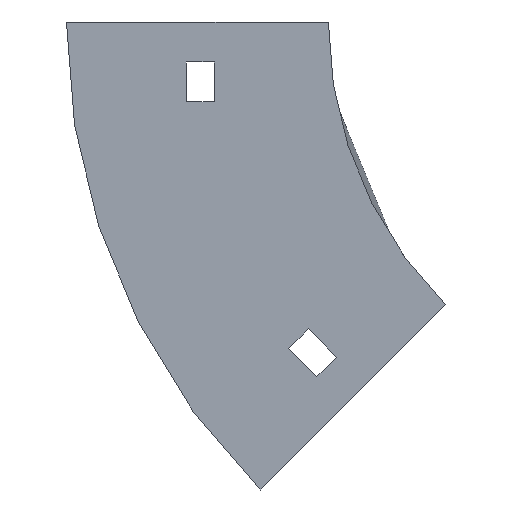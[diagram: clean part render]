
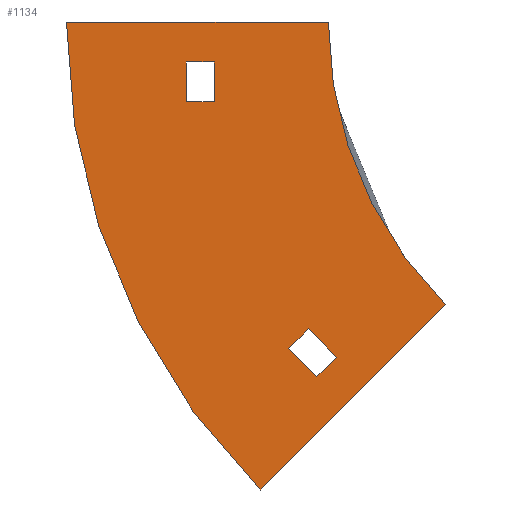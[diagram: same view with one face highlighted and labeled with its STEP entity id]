
A CAD part, left-side view. The second image highlights one B-rep face of the part: STEP entity #1134.
In plain terms, the highlighted planar face has unit normal (-1, 0, 0).
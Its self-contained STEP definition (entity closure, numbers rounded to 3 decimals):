
#76 = CARTESIAN_POINT ( 'NONE',  ( -302., -29.289, -70.711 ) ) ;
#102 = DIRECTION ( 'NONE',  ( 0., 0., 1. ) ) ;
#116 = FACE_BOUND ( 'NONE', #968, .T. ) ;
#124 = CARTESIAN_POINT ( 'NONE',  ( -302., 9.955, -81.671 ) ) ;
#126 = EDGE_CURVE ( 'NONE', #280, #613, #568, .T. ) ;
#146 = LINE ( 'NONE', #311, #855 ) ;
#156 = EDGE_CURVE ( 'NONE', #752, #704, #820, .T. ) ;
#185 = ORIENTED_EDGE ( 'NONE', *, *, #371, .F. ) ;
#207 = CARTESIAN_POINT ( 'NONE',  ( -302., -2.066, -83.792 ) ) ;
#218 = LINE ( 'NONE', #741, #244 ) ;
#220 = EDGE_CURVE ( 'NONE', #977, #584, #249, .T. ) ;
#222 = DIRECTION ( 'NONE',  ( 0., -1., 0. ) ) ;
#227 = DIRECTION ( 'NONE',  ( 0., 1., 0. ) ) ;
#236 = DIRECTION ( 'NONE',  ( -1., 0., 0. ) ) ;
#244 = VECTOR ( 'NONE', #392, 1000. ) ;
#249 = LINE ( 'NONE', #953, #873 ) ;
#257 = EDGE_CURVE ( 'NONE', #613, #863, #528, .T. ) ;
#259 = ORIENTED_EDGE ( 'NONE', *, *, #839, .F. ) ;
#264 = VECTOR ( 'NONE', #674, 1000. ) ;
#268 = VECTOR ( 'NONE', #1003, 1000. ) ;
#269 = VECTOR ( 'NONE', #222, 1000. ) ;
#280 = VERTEX_POINT ( 'NONE', #697 ) ;
#283 = PLANE ( 'NONE',  #339 ) ;
#296 = CARTESIAN_POINT ( 'NONE',  ( -302., -2.066, -83.792 ) ) ;
#308 = LINE ( 'NONE', #659, #269 ) ;
#311 = CARTESIAN_POINT ( 'NONE',  ( -302., -29.289, -70.711 ) ) ;
#339 = AXIS2_PLACEMENT_3D ( 'NONE', #813, #898, #102 ) ;
#357 = ORIENTED_EDGE ( 'NONE', *, *, #220, .T. ) ;
#359 = CARTESIAN_POINT ( 'NONE',  ( -302., 2.884, -88.742 ) ) ;
#370 = CARTESIAN_POINT ( 'NONE',  ( -302., 35.5, -20. ) ) ;
#371 = EDGE_CURVE ( 'NONE', #927, #771, #384, .T. ) ;
#372 = DIRECTION ( 'NONE',  ( 0., 0., 1. ) ) ;
#384 = CIRCLE ( 'NONE', #837, 165.5 ) ;
#392 = DIRECTION ( 'NONE',  ( 0., -0.707, 0.707 ) ) ;
#394 = ORIENTED_EDGE ( 'NONE', *, *, #257, .F. ) ;
#396 = ORIENTED_EDGE ( 'NONE', *, *, #156, .F. ) ;
#429 = ORIENTED_EDGE ( 'NONE', *, *, #872, .F. ) ;
#468 = VECTOR ( 'NONE', #227, 1000. ) ;
#478 = CARTESIAN_POINT ( 'NONE',  ( -302., 2.884, -88.742 ) ) ;
#481 = VERTEX_POINT ( 'NONE', #370 ) ;
#493 = ORIENTED_EDGE ( 'NONE', *, *, #661, .F. ) ;
#511 = ORIENTED_EDGE ( 'NONE', *, *, #867, .T. ) ;
#513 = CARTESIAN_POINT ( 'NONE',  ( -302., 9.955, -81.671 ) ) ;
#518 = ORIENTED_EDGE ( 'NONE', *, *, #834, .F. ) ;
#526 = VERTEX_POINT ( 'NONE', #296 ) ;
#528 = LINE ( 'NONE', #359, #1130 ) ;
#532 = CARTESIAN_POINT ( 'NONE',  ( -302., 0., 0. ) ) ;
#540 = FACE_OUTER_BOUND ( 'NONE', #1071, .T. ) ;
#548 = CARTESIAN_POINT ( 'NONE',  ( -302., 28.5, -10. ) ) ;
#558 = LINE ( 'NONE', #932, #950 ) ;
#559 = AXIS2_PLACEMENT_3D ( 'NONE', #1114, #236, #1125 ) ;
#564 = LINE ( 'NONE', #1015, #468 ) ;
#568 = LINE ( 'NONE', #124, #264 ) ;
#579 = DIRECTION ( 'NONE',  ( 0., -1., 0. ) ) ;
#584 = VERTEX_POINT ( 'NONE', #1032 ) ;
#613 = VERTEX_POINT ( 'NONE', #513 ) ;
#649 = LINE ( 'NONE', #207, #268 ) ;
#659 = CARTESIAN_POINT ( 'NONE',  ( -302., 35.5, -10. ) ) ;
#661 = EDGE_CURVE ( 'NONE', #526, #280, #649, .T. ) ;
#674 = DIRECTION ( 'NONE',  ( 0., 0.707, -0.707 ) ) ;
#691 = VERTEX_POINT ( 'NONE', #859 ) ;
#697 = CARTESIAN_POINT ( 'NONE',  ( -302., 5.005, -76.721 ) ) ;
#704 = VERTEX_POINT ( 'NONE', #76 ) ;
#741 = CARTESIAN_POINT ( 'NONE',  ( -302., 2.884, -88.742 ) ) ;
#752 = VERTEX_POINT ( 'NONE', #532 ) ;
#766 = ORIENTED_EDGE ( 'NONE', *, *, #884, .T. ) ;
#771 = VERTEX_POINT ( 'NONE', #807 ) ;
#804 = DIRECTION ( 'NONE',  ( 0., -0.707, -0.707 ) ) ;
#807 = CARTESIAN_POINT ( 'NONE',  ( -302., 65.5, 0. ) ) ;
#813 = CARTESIAN_POINT ( 'NONE',  ( -302., -100., 0. ) ) ;
#820 = CIRCLE ( 'NONE', #559, 100. ) ;
#821 = DIRECTION ( 'NONE',  ( 1., 0., 0. ) ) ;
#822 = CARTESIAN_POINT ( 'NONE',  ( -302., 65.5, 0. ) ) ;
#831 = EDGE_LOOP ( 'NONE', ( #1121, #357, #511, #766 ) ) ;
#834 = EDGE_CURVE ( 'NONE', #704, #927, #146, .T. ) ;
#837 = AXIS2_PLACEMENT_3D ( 'NONE', #982, #821, #372 ) ;
#839 = EDGE_CURVE ( 'NONE', #863, #526, #218, .T. ) ;
#848 = DIRECTION ( 'NONE',  ( 0., 0.707, -0.707 ) ) ;
#855 = VECTOR ( 'NONE', #848, 1000. ) ;
#859 = CARTESIAN_POINT ( 'NONE',  ( -302., 35.5, -10. ) ) ;
#863 = VERTEX_POINT ( 'NONE', #478 ) ;
#867 = EDGE_CURVE ( 'NONE', #584, #481, #564, .T. ) ;
#868 = CARTESIAN_POINT ( 'NONE',  ( -302., 17.026, -117.026 ) ) ;
#872 = EDGE_CURVE ( 'NONE', #771, #752, #917, .T. ) ;
#873 = VECTOR ( 'NONE', #1050, 1000. ) ;
#880 = ORIENTED_EDGE ( 'NONE', *, *, #126, .F. ) ;
#884 = EDGE_CURVE ( 'NONE', #481, #691, #558, .T. ) ;
#898 = DIRECTION ( 'NONE',  ( -1., 0., 0. ) ) ;
#917 = LINE ( 'NONE', #822, #1002 ) ;
#927 = VERTEX_POINT ( 'NONE', #868 ) ;
#932 = CARTESIAN_POINT ( 'NONE',  ( -302., 35.5, -10. ) ) ;
#950 = VECTOR ( 'NONE', #1011, 1000. ) ;
#953 = CARTESIAN_POINT ( 'NONE',  ( -302., 28.5, -10. ) ) ;
#968 = EDGE_LOOP ( 'NONE', ( #493, #259, #394, #880 ) ) ;
#977 = VERTEX_POINT ( 'NONE', #548 ) ;
#982 = CARTESIAN_POINT ( 'NONE',  ( -302., -100., 0. ) ) ;
#1002 = VECTOR ( 'NONE', #579, 1000. ) ;
#1003 = DIRECTION ( 'NONE',  ( 0., 0.707, 0.707 ) ) ;
#1011 = DIRECTION ( 'NONE',  ( 0., 0., 1. ) ) ;
#1015 = CARTESIAN_POINT ( 'NONE',  ( -302., 35.5, -20. ) ) ;
#1032 = CARTESIAN_POINT ( 'NONE',  ( -302., 28.5, -20. ) ) ;
#1050 = DIRECTION ( 'NONE',  ( 0., 0., -1. ) ) ;
#1062 = EDGE_CURVE ( 'NONE', #691, #977, #308, .T. ) ;
#1071 = EDGE_LOOP ( 'NONE', ( #396, #429, #185, #518 ) ) ;
#1078 = FACE_BOUND ( 'NONE', #831, .T. ) ;
#1114 = CARTESIAN_POINT ( 'NONE',  ( -302., -100., 0. ) ) ;
#1121 = ORIENTED_EDGE ( 'NONE', *, *, #1062, .T. ) ;
#1125 = DIRECTION ( 'NONE',  ( 0., 0., 1. ) ) ;
#1130 = VECTOR ( 'NONE', #804, 1000. ) ;
#1134 = ADVANCED_FACE ( 'NONE', ( #1078, #540, #116 ), #283, .T. ) ;
